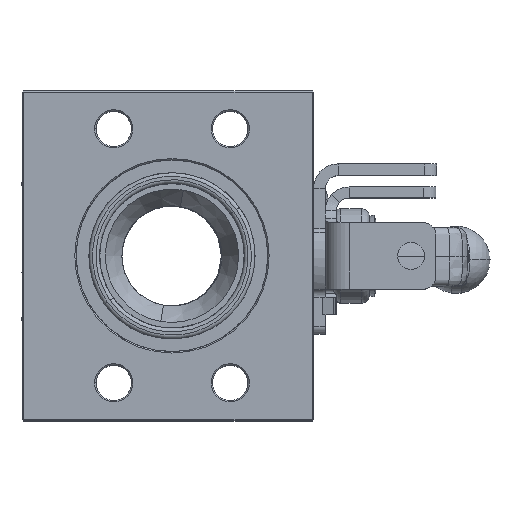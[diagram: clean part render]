
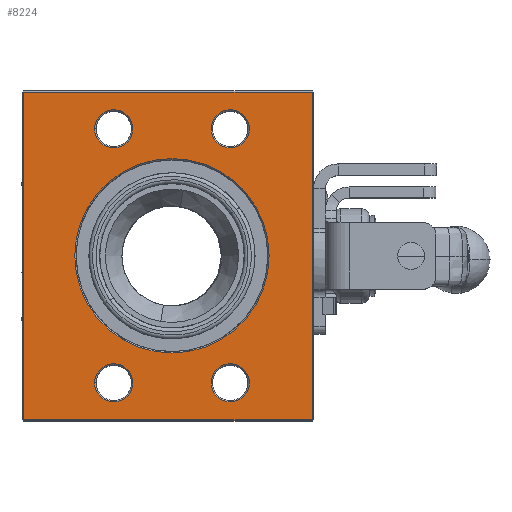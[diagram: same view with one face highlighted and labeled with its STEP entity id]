
A CAD part, top view. The second image highlights one B-rep face of the part: STEP entity #8224.
In plain terms, the highlighted planar face has unit normal (0, 0, 1).
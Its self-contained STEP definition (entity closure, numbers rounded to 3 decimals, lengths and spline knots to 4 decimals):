
#447 = CARTESIAN_POINT ( 'NONE',  ( 1.9831, 2.4242, 4.6926 ) ) ;
#576 = EDGE_CURVE ( 'NONE', #6199, #31770, #14824, .T. ) ;
#1038 = DIRECTION ( 'NONE',  ( -1., 0., 0. ) ) ;
#3390 = DIRECTION ( 'NONE',  ( 0., 0., -1. ) ) ;
#5031 = VERTEX_POINT ( 'NONE', #59760 ) ;
#5105 = AXIS2_PLACEMENT_3D ( 'NONE', #31361, #3390, #30173 ) ;
#5596 = EDGE_LOOP ( 'NONE', ( #22254, #17622, #45389, #6626 ) ) ;
#5724 = LINE ( 'NONE', #20606, #46748 ) ;
#6199 = VERTEX_POINT ( 'NONE', #44827 ) ;
#6480 = DIRECTION ( 'NONE',  ( 0., 0., -1. ) ) ;
#6626 = ORIENTED_EDGE ( 'NONE', *, *, #9260, .T. ) ;
#7146 = AXIS2_PLACEMENT_3D ( 'NONE', #49800, #35192, #26044 ) ;
#7620 = EDGE_CURVE ( 'NONE', #34009, #33271, #11562, .T. ) ;
#7724 = ORIENTED_EDGE ( 'NONE', *, *, #576, .T. ) ;
#8224 = ADVANCED_FACE ( 'NONE', ( #59816, #36095, #22095, #27247, #12661, #45842 ), #32139, .F. ) ;
#8605 = CARTESIAN_POINT ( 'NONE',  ( -0.2469, 4.8817, 4.6926 ) ) ;
#8736 = CIRCLE ( 'NONE', #28155, 0.2855 ) ;
#8947 = DIRECTION ( 'NONE',  ( -1., 0., 0. ) ) ;
#9260 = EDGE_CURVE ( 'NONE', #57861, #34009, #11854, .T. ) ;
#10675 = CARTESIAN_POINT ( 'NONE',  ( 2.8581, 4.3302, 4.6926 ) ) ;
#11382 = CIRCLE ( 'NONE', #13315, 0.2855 ) ;
#11401 = EDGE_LOOP ( 'NONE', ( #16165, #7724 ) ) ;
#11562 = LINE ( 'NONE', #44418, #28992 ) ;
#11789 = CARTESIAN_POINT ( 'NONE',  ( 3.4416, 2.4242, 4.6926 ) ) ;
#11840 = CARTESIAN_POINT ( 'NONE',  ( 0.8226, 0.5182, 4.6926 ) ) ;
#11854 = LINE ( 'NONE', #25839, #12158 ) ;
#12158 = VECTOR ( 'NONE', #21294, 39.3701 ) ;
#12661 = FACE_BOUND ( 'NONE', #19507, .T. ) ;
#12690 = ORIENTED_EDGE ( 'NONE', *, *, #19026, .T. ) ;
#13315 = AXIS2_PLACEMENT_3D ( 'NONE', #53461, #16050, #57730 ) ;
#13323 = CARTESIAN_POINT ( 'NONE',  ( 4.0881, -0.0333, 4.6926 ) ) ;
#13420 = ORIENTED_EDGE ( 'NONE', *, *, #55777, .T. ) ;
#13547 = CARTESIAN_POINT ( 'NONE',  ( 4.0881, -0.0533, 4.6926 ) ) ;
#14319 = VERTEX_POINT ( 'NONE', #46195 ) ;
#14824 = CIRCLE ( 'NONE', #5105, 0.2855 ) ;
#15084 = VERTEX_POINT ( 'NONE', #13323 ) ;
#16050 = DIRECTION ( 'NONE',  ( 0., 0., -1. ) ) ;
#16165 = ORIENTED_EDGE ( 'NONE', *, *, #53422, .T. ) ;
#16489 = CARTESIAN_POINT ( 'NONE',  ( 2.5726, 4.3302, 4.6926 ) ) ;
#16873 = CIRCLE ( 'NONE', #50881, 0.2855 ) ;
#17497 = EDGE_CURVE ( 'NONE', #23801, #14319, #11382, .T. ) ;
#17622 = ORIENTED_EDGE ( 'NONE', *, *, #27498, .T. ) ;
#17654 = ORIENTED_EDGE ( 'NONE', *, *, #51619, .T. ) ;
#17828 = LINE ( 'NONE', #13547, #19487 ) ;
#18245 = VERTEX_POINT ( 'NONE', #28017 ) ;
#18380 = AXIS2_PLACEMENT_3D ( 'NONE', #18455, #37010, #31230 ) ;
#18455 = CARTESIAN_POINT ( 'NONE',  ( -0.2669, -0.0533, 4.6926 ) ) ;
#18724 = DIRECTION ( 'NONE',  ( 0., 0., -1. ) ) ;
#19026 = EDGE_CURVE ( 'NONE', #43896, #60191, #43578, .T. ) ;
#19487 = VECTOR ( 'NONE', #40647, 39.3701 ) ;
#19507 = EDGE_LOOP ( 'NONE', ( #45709, #42674 ) ) ;
#20066 = ORIENTED_EDGE ( 'NONE', *, *, #49879, .T. ) ;
#20100 = EDGE_LOOP ( 'NONE', ( #50293, #12690 ) ) ;
#20606 = CARTESIAN_POINT ( 'NONE',  ( -0.2669, -0.0333, 4.6926 ) ) ;
#20674 = CARTESIAN_POINT ( 'NONE',  ( 0.5246, 2.4242, 4.6926 ) ) ;
#20764 = DIRECTION ( 'NONE',  ( -1., 0., 0. ) ) ;
#21156 = DIRECTION ( 'NONE',  ( -1., 0., 0. ) ) ;
#21294 = DIRECTION ( 'NONE',  ( -1., 0., 0. ) ) ;
#22095 = FACE_BOUND ( 'NONE', #57607, .T. ) ;
#22254 = ORIENTED_EDGE ( 'NONE', *, *, #7620, .T. ) ;
#22351 = CARTESIAN_POINT ( 'NONE',  ( 2.8581, 0.5182, 4.6926 ) ) ;
#22423 = CARTESIAN_POINT ( 'NONE',  ( 1.3936, 4.3302, 4.6926 ) ) ;
#22670 = CIRCLE ( 'NONE', #7146, 0.2855 ) ;
#23010 = CARTESIAN_POINT ( 'NONE',  ( 2.5726, 0.5182, 4.6926 ) ) ;
#23801 = VERTEX_POINT ( 'NONE', #23010 ) ;
#25342 = CIRCLE ( 'NONE', #34073, 0.2855 ) ;
#25839 = CARTESIAN_POINT ( 'NONE',  ( -0.2669, 4.8817, 4.6926 ) ) ;
#26044 = DIRECTION ( 'NONE',  ( -1., 0., 0. ) ) ;
#26299 = DIRECTION ( 'NONE',  ( 0., 0., -1. ) ) ;
#26469 = EDGE_CURVE ( 'NONE', #15084, #57861, #17828, .T. ) ;
#27247 = FACE_BOUND ( 'NONE', #11401, .T. ) ;
#27498 = EDGE_CURVE ( 'NONE', #33271, #15084, #5724, .T. ) ;
#27928 = EDGE_CURVE ( 'NONE', #30327, #18245, #25342, .T. ) ;
#28017 = CARTESIAN_POINT ( 'NONE',  ( 3.1436, 4.3302, 4.6926 ) ) ;
#28155 = AXIS2_PLACEMENT_3D ( 'NONE', #22351, #54608, #36346 ) ;
#28387 = DIRECTION ( 'NONE',  ( 0., 0., -1. ) ) ;
#28992 = VECTOR ( 'NONE', #54135, 39.3701 ) ;
#29234 = DIRECTION ( 'NONE',  ( 0., 0., -1. ) ) ;
#29348 = EDGE_CURVE ( 'NONE', #60191, #43896, #31542, .T. ) ;
#30173 = DIRECTION ( 'NONE',  ( -1., 0., 0. ) ) ;
#30327 = VERTEX_POINT ( 'NONE', #16489 ) ;
#30858 = VERTEX_POINT ( 'NONE', #11840 ) ;
#31230 = DIRECTION ( 'NONE',  ( -1., 0., 0. ) ) ;
#31361 = CARTESIAN_POINT ( 'NONE',  ( 1.1081, 4.3302, 4.6926 ) ) ;
#31542 = CIRCLE ( 'NONE', #52930, 1.4585 ) ;
#31770 = VERTEX_POINT ( 'NONE', #22423 ) ;
#32139 = PLANE ( 'NONE',  #18380 ) ;
#33271 = VERTEX_POINT ( 'NONE', #55918 ) ;
#34009 = VERTEX_POINT ( 'NONE', #8605 ) ;
#34073 = AXIS2_PLACEMENT_3D ( 'NONE', #43897, #6480, #20764 ) ;
#34093 = CARTESIAN_POINT ( 'NONE',  ( 1.1081, 0.5182, 4.6926 ) ) ;
#34243 = CARTESIAN_POINT ( 'NONE',  ( 1.1081, 4.3302, 4.6926 ) ) ;
#34392 = DIRECTION ( 'NONE',  ( 0., 0., -1. ) ) ;
#35192 = DIRECTION ( 'NONE',  ( 0., 0., -1. ) ) ;
#36095 = FACE_BOUND ( 'NONE', #60025, .T. ) ;
#36346 = DIRECTION ( 'NONE',  ( -1., 0., 0. ) ) ;
#36349 = CIRCLE ( 'NONE', #57736, 0.2855 ) ;
#37010 = DIRECTION ( 'NONE',  ( 0., 0., -1. ) ) ;
#38683 = EDGE_CURVE ( 'NONE', #14319, #23801, #8736, .T. ) ;
#38692 = DIRECTION ( 'NONE',  ( -1., 0., 0. ) ) ;
#40647 = DIRECTION ( 'NONE',  ( 0., 1., 0. ) ) ;
#42567 = AXIS2_PLACEMENT_3D ( 'NONE', #45784, #28387, #8947 ) ;
#42674 = ORIENTED_EDGE ( 'NONE', *, *, #17497, .T. ) ;
#43139 = DIRECTION ( 'NONE',  ( 1., 0., 0. ) ) ;
#43578 = CIRCLE ( 'NONE', #42567, 1.4585 ) ;
#43896 = VERTEX_POINT ( 'NONE', #20674 ) ;
#43897 = CARTESIAN_POINT ( 'NONE',  ( 2.8581, 4.3302, 4.6926 ) ) ;
#44418 = CARTESIAN_POINT ( 'NONE',  ( -0.2469, -0.0533, 4.6926 ) ) ;
#44827 = CARTESIAN_POINT ( 'NONE',  ( 0.8226, 4.3302, 4.6926 ) ) ;
#45389 = ORIENTED_EDGE ( 'NONE', *, *, #26469, .T. ) ;
#45709 = ORIENTED_EDGE ( 'NONE', *, *, #38683, .T. ) ;
#45784 = CARTESIAN_POINT ( 'NONE',  ( 1.9831, 2.4242, 4.6926 ) ) ;
#45842 = FACE_OUTER_BOUND ( 'NONE', #5596, .T. ) ;
#46195 = CARTESIAN_POINT ( 'NONE',  ( 3.1436, 0.5182, 4.6926 ) ) ;
#46748 = VECTOR ( 'NONE', #43139, 39.3701 ) ;
#48854 = AXIS2_PLACEMENT_3D ( 'NONE', #34093, #34392, #52661 ) ;
#49800 = CARTESIAN_POINT ( 'NONE',  ( 1.1081, 0.5182, 4.6926 ) ) ;
#49879 = EDGE_CURVE ( 'NONE', #5031, #30858, #59500, .T. ) ;
#50293 = ORIENTED_EDGE ( 'NONE', *, *, #29348, .T. ) ;
#50881 = AXIS2_PLACEMENT_3D ( 'NONE', #10675, #29234, #38692 ) ;
#51619 = EDGE_CURVE ( 'NONE', #30858, #5031, #22670, .T. ) ;
#52661 = DIRECTION ( 'NONE',  ( -1., 0., 0. ) ) ;
#52930 = AXIS2_PLACEMENT_3D ( 'NONE', #447, #18724, #1038 ) ;
#53422 = EDGE_CURVE ( 'NONE', #31770, #6199, #36349, .T. ) ;
#53461 = CARTESIAN_POINT ( 'NONE',  ( 2.8581, 0.5182, 4.6926 ) ) ;
#54135 = DIRECTION ( 'NONE',  ( 0., -1., 0. ) ) ;
#54608 = DIRECTION ( 'NONE',  ( 0., 0., -1. ) ) ;
#55087 = ORIENTED_EDGE ( 'NONE', *, *, #27928, .T. ) ;
#55777 = EDGE_CURVE ( 'NONE', #18245, #30327, #16873, .T. ) ;
#55867 = CARTESIAN_POINT ( 'NONE',  ( 4.0881, 4.8817, 4.6926 ) ) ;
#55918 = CARTESIAN_POINT ( 'NONE',  ( -0.2469, -0.0333, 4.6926 ) ) ;
#57607 = EDGE_LOOP ( 'NONE', ( #13420, #55087 ) ) ;
#57730 = DIRECTION ( 'NONE',  ( -1., 0., 0. ) ) ;
#57736 = AXIS2_PLACEMENT_3D ( 'NONE', #34243, #26299, #21156 ) ;
#57861 = VERTEX_POINT ( 'NONE', #55867 ) ;
#59500 = CIRCLE ( 'NONE', #48854, 0.2855 ) ;
#59760 = CARTESIAN_POINT ( 'NONE',  ( 1.3936, 0.5182, 4.6926 ) ) ;
#59816 = FACE_BOUND ( 'NONE', #20100, .T. ) ;
#60025 = EDGE_LOOP ( 'NONE', ( #20066, #17654 ) ) ;
#60191 = VERTEX_POINT ( 'NONE', #11789 ) ;
